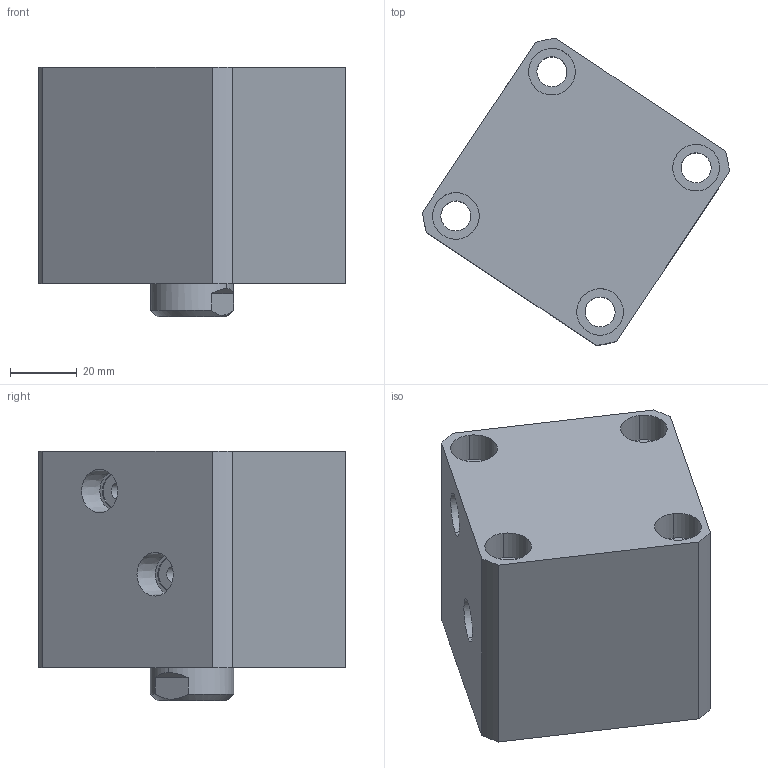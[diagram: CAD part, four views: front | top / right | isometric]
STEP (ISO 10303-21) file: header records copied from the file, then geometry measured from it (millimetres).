
FILE_DESCRIPTION (( 'STEP AP214' ), '1' );
FILE_NAME ('chtb-sd40x10n_asm.STEP', '2018-06-07T08:23:51', ( 'Windows' ), ( 'Microsoft' ), 'SwSTEP 2.0', 'SolidWorks 2015', '' );
FILE_SCHEMA (( 'AUTOMOTIVE_DESIGN' ));
Length unit declared in the file: millimetre
Products named in the file (4): CHTB-SD40QG; chtb-sd40x10n_asm; CHTB-SD40X10NBT; CHTB-SD40X10NHSG
Assembly tree (3 placements, depth 2):
  chtb-sd40x10n_asm
    CHTB-SD40QG
    CHTB-SD40X10NHSG
    CHTB-SD40X10NBT
Bounding box: 92.2 x 92.2 x 75 mm (x, y, z)
Volume: 278499.6 mm3; surface area: 64570.5 mm2
Topology: 3 solids, 3 shells, 157 faces, 401 edges, 266 vertices
Faces by surface type: cylinder 80, plane 36, bspline 14, torus 14, cone 13
Entity records: 9977 total; most frequent: CARTESIAN_POINT 6053, ORIENTED_EDGE 790, DIRECTION 768, EDGE_CURVE 395, AXIS2_PLACEMENT_3D 328, VERTEX_POINT 266, EDGE_LOOP 193, CIRCLE 179
